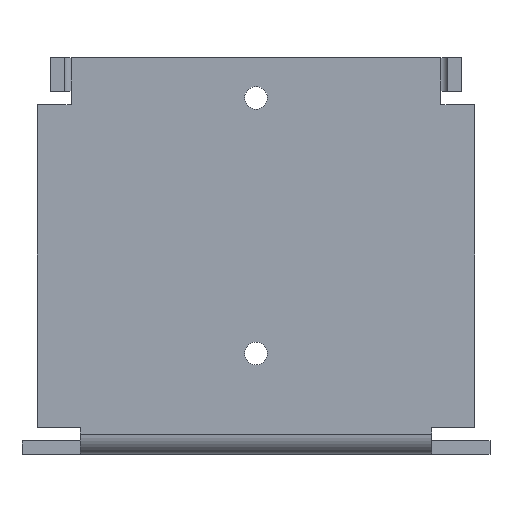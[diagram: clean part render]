
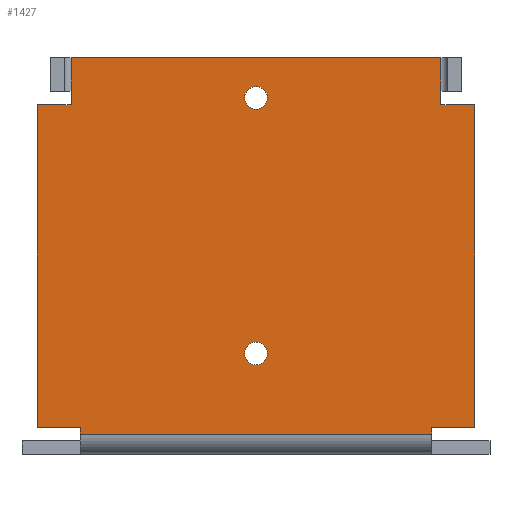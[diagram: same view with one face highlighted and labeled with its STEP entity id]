
A CAD part, top view. The second image highlights one B-rep face of the part: STEP entity #1427.
In plain terms, the highlighted planar face has unit normal (0, 0, 1).
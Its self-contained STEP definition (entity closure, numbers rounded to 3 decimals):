
#148=FACE_BOUND('',#376,.T.);
#149=FACE_BOUND('',#377,.T.);
#203=PLANE('',#1547);
#289=FACE_OUTER_BOUND('',#375,.T.);
#375=EDGE_LOOP('',(#1336,#1337,#1338,#1339,#1340,#1341,#1342,#1343,#1344,
#1345,#1346,#1347,#1348,#1349));
#376=EDGE_LOOP('',(#1350));
#377=EDGE_LOOP('',(#1351));
#453=LINE('',#2102,#603);
#468=LINE('',#2135,#618);
#484=LINE('',#2176,#634);
#487=LINE('',#2182,#637);
#511=LINE('',#2237,#661);
#513=LINE('',#2241,#663);
#515=LINE('',#2246,#665);
#517=LINE('',#2249,#667);
#519=LINE('',#2253,#669);
#521=LINE('',#2257,#671);
#523=LINE('',#2261,#673);
#524=LINE('',#2263,#674);
#526=LINE('',#2267,#676);
#527=LINE('',#2269,#677);
#603=VECTOR('',#1729,10.);
#618=VECTOR('',#1768,10.);
#634=VECTOR('',#1810,10.);
#637=VECTOR('',#1815,10.);
#661=VECTOR('',#1867,10.);
#663=VECTOR('',#1871,10.);
#665=VECTOR('',#1875,10.);
#667=VECTOR('',#1879,10.);
#669=VECTOR('',#1883,10.);
#671=VECTOR('',#1887,10.);
#673=VECTOR('',#1891,10.);
#674=VECTOR('',#1894,10.);
#676=VECTOR('',#1898,10.);
#677=VECTOR('',#1901,10.);
#680=CIRCLE('',#1452,1.7);
#683=CIRCLE('',#1457,1.7);
#712=VERTEX_POINT('',#1920);
#715=VERTEX_POINT('',#1930);
#772=VERTEX_POINT('',#2099);
#773=VERTEX_POINT('',#2101);
#779=VERTEX_POINT('',#2133);
#789=VERTEX_POINT('',#2161);
#790=VERTEX_POINT('',#2165);
#793=VERTEX_POINT('',#2180);
#809=VERTEX_POINT('',#2226);
#811=VERTEX_POINT('',#2239);
#812=VERTEX_POINT('',#2243);
#813=VERTEX_POINT('',#2245);
#814=VERTEX_POINT('',#2251);
#815=VERTEX_POINT('',#2255);
#816=VERTEX_POINT('',#2259);
#817=VERTEX_POINT('',#2265);
#822=EDGE_CURVE('',#712,#712,#680,.T.);
#827=EDGE_CURVE('',#715,#715,#683,.T.);
#910=EDGE_CURVE('',#773,#772,#453,.T.);
#928=EDGE_CURVE('',#772,#779,#468,.T.);
#948=EDGE_CURVE('',#789,#790,#484,.T.);
#951=EDGE_CURVE('',#790,#793,#487,.T.);
#979=EDGE_CURVE('',#793,#809,#511,.T.);
#981=EDGE_CURVE('',#809,#811,#513,.T.);
#983=EDGE_CURVE('',#813,#812,#515,.T.);
#985=EDGE_CURVE('',#812,#773,#517,.T.);
#987=EDGE_CURVE('',#779,#814,#519,.T.);
#989=EDGE_CURVE('',#814,#815,#521,.T.);
#991=EDGE_CURVE('',#815,#816,#523,.T.);
#992=EDGE_CURVE('',#816,#789,#524,.T.);
#994=EDGE_CURVE('',#811,#817,#526,.T.);
#995=EDGE_CURVE('',#817,#813,#527,.T.);
#1336=ORIENTED_EDGE('',*,*,#910,.T.);
#1337=ORIENTED_EDGE('',*,*,#928,.T.);
#1338=ORIENTED_EDGE('',*,*,#987,.T.);
#1339=ORIENTED_EDGE('',*,*,#989,.T.);
#1340=ORIENTED_EDGE('',*,*,#991,.T.);
#1341=ORIENTED_EDGE('',*,*,#992,.T.);
#1342=ORIENTED_EDGE('',*,*,#948,.T.);
#1343=ORIENTED_EDGE('',*,*,#951,.T.);
#1344=ORIENTED_EDGE('',*,*,#979,.T.);
#1345=ORIENTED_EDGE('',*,*,#981,.T.);
#1346=ORIENTED_EDGE('',*,*,#994,.T.);
#1347=ORIENTED_EDGE('',*,*,#995,.T.);
#1348=ORIENTED_EDGE('',*,*,#983,.T.);
#1349=ORIENTED_EDGE('',*,*,#985,.T.);
#1350=ORIENTED_EDGE('',*,*,#822,.T.);
#1351=ORIENTED_EDGE('',*,*,#827,.T.);
#1427=ADVANCED_FACE('',(#289,#148,#149),#203,.T.);
#1452=AXIS2_PLACEMENT_3D('',#1922,#1564,#1565);
#1457=AXIS2_PLACEMENT_3D('',#1932,#1576,#1577);
#1547=AXIS2_PLACEMENT_3D('',#2270,#1902,#1903);
#1564=DIRECTION('center_axis',(0.,0.,-1.));
#1565=DIRECTION('ref_axis',(-1.,0.,0.));
#1576=DIRECTION('center_axis',(0.,0.,-1.));
#1577=DIRECTION('ref_axis',(-1.,0.,0.));
#1729=DIRECTION('',(1.,0.,0.));
#1768=DIRECTION('',(0.,1.,0.));
#1810=DIRECTION('',(0.,1.,0.));
#1815=DIRECTION('',(-1.,0.,0.));
#1867=DIRECTION('',(0.,-1.,0.));
#1871=DIRECTION('',(0.,-1.,0.));
#1875=DIRECTION('',(1.,0.,0.));
#1879=DIRECTION('',(0.,-1.,0.));
#1883=DIRECTION('',(1.,0.,0.));
#1887=DIRECTION('',(0.,1.,0.));
#1891=DIRECTION('',(-1.,0.,0.));
#1894=DIRECTION('',(0.,1.,0.));
#1898=DIRECTION('',(-1.,0.,0.));
#1901=DIRECTION('',(0.,-1.,0.));
#1902=DIRECTION('center_axis',(0.,0.,1.));
#1903=DIRECTION('ref_axis',(1.,0.,0.));
#1920=CARTESIAN_POINT('',(1.7,23.5,0.));
#1922=CARTESIAN_POINT('Origin',(0.,23.5,0.));
#1930=CARTESIAN_POINT('',(1.7,-14.5,0.));
#1932=CARTESIAN_POINT('Origin',(0.,-14.5,0.));
#2099=CARTESIAN_POINT('',(26.1,-26.5,0.));
#2101=CARTESIAN_POINT('',(-26.1,-26.5,0.));
#2102=CARTESIAN_POINT('',(-13.05,-26.5,0.));
#2133=CARTESIAN_POINT('',(26.1,-25.5,0.));
#2135=CARTESIAN_POINT('',(26.1,-29.5,0.));
#2161=CARTESIAN_POINT('',(27.5,24.5,0.));
#2165=CARTESIAN_POINT('',(27.5,29.5,0.));
#2176=CARTESIAN_POINT('',(27.5,22.5,0.));
#2180=CARTESIAN_POINT('',(-27.5,29.5,0.));
#2182=CARTESIAN_POINT('',(30.5,29.5,0.));
#2226=CARTESIAN_POINT('',(-27.5,24.5,0.));
#2237=CARTESIAN_POINT('',(-27.5,12.837,0.));
#2239=CARTESIAN_POINT('',(-27.5,22.5,0.));
#2241=CARTESIAN_POINT('',(-27.5,12.837,0.));
#2243=CARTESIAN_POINT('',(-26.1,-25.5,0.));
#2245=CARTESIAN_POINT('',(-32.5,-25.5,0.));
#2246=CARTESIAN_POINT('',(-32.5,-25.5,0.));
#2249=CARTESIAN_POINT('',(-26.1,-25.5,0.));
#2251=CARTESIAN_POINT('',(32.5,-25.5,0.));
#2253=CARTESIAN_POINT('',(26.1,-25.5,0.));
#2255=CARTESIAN_POINT('',(32.5,22.5,0.));
#2257=CARTESIAN_POINT('',(32.5,-25.5,0.));
#2259=CARTESIAN_POINT('',(27.5,22.5,0.));
#2261=CARTESIAN_POINT('',(32.5,22.5,0.));
#2263=CARTESIAN_POINT('',(27.5,22.5,0.));
#2265=CARTESIAN_POINT('',(-32.5,22.5,0.));
#2267=CARTESIAN_POINT('',(-27.5,22.5,0.));
#2269=CARTESIAN_POINT('',(-32.5,22.5,0.));
#2270=CARTESIAN_POINT('Origin',(0.,1.174,0.));
